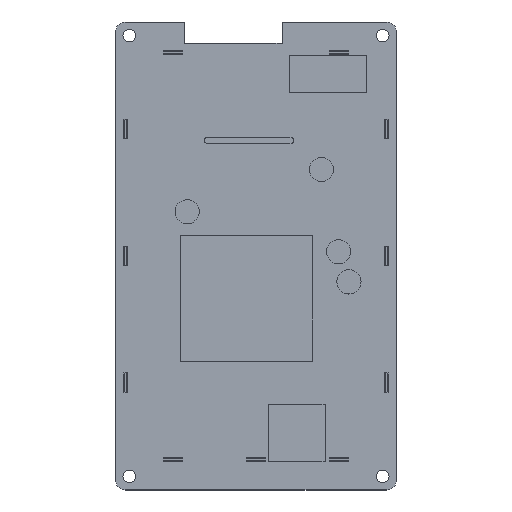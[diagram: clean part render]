
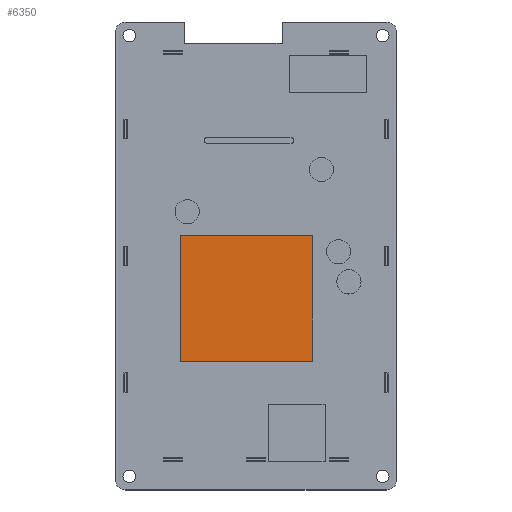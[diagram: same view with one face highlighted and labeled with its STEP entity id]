
A CAD part, top view. The second image highlights one B-rep face of the part: STEP entity #6350.
In plain terms, the highlighted planar face has unit normal (0, 0, 1).
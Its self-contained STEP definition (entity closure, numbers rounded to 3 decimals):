
#2121=DIRECTION('',(-1.,0.,0.));
#2122=VECTOR('',#2121,34.417);
#2123=CARTESIAN_POINT('',(14.783,5.334,5.2));
#2124=LINE('',#2123,#2122);
#2125=DIRECTION('',(0.,1.,0.));
#2126=VECTOR('',#2125,32.766);
#2127=CARTESIAN_POINT('',(14.783,-27.432,5.2));
#2128=LINE('',#2127,#2126);
#2129=DIRECTION('',(1.,0.,0.));
#2130=VECTOR('',#2129,34.417);
#2131=CARTESIAN_POINT('',(-19.634,-27.432,5.2));
#2132=LINE('',#2131,#2130);
#2133=DIRECTION('',(0.,-1.,0.));
#2134=VECTOR('',#2133,32.766);
#2135=CARTESIAN_POINT('',(-19.634,5.334,5.2));
#2136=LINE('',#2135,#2134);
#2541=CARTESIAN_POINT('',(14.783,5.334,5.2));
#2542=CARTESIAN_POINT('',(-19.634,5.334,5.2));
#2543=VERTEX_POINT('',#2541);
#2544=VERTEX_POINT('',#2542);
#2545=CARTESIAN_POINT('',(-19.634,-27.432,5.2));
#2546=VERTEX_POINT('',#2545);
#2547=CARTESIAN_POINT('',(14.783,-27.432,5.2));
#2548=VERTEX_POINT('',#2547);
#6339=CARTESIAN_POINT('',(-36.576,58.42,5.2));
#6340=DIRECTION('',(0.,0.,1.));
#6341=DIRECTION('',(0.,-1.,0.));
#6342=AXIS2_PLACEMENT_3D('',#6339,#6340,#6341);
#6343=PLANE('',#6342);
#6344=ORIENTED_EDGE('',*,*,#6291,.F.);
#6345=ORIENTED_EDGE('',*,*,#6306,.F.);
#6346=ORIENTED_EDGE('',*,*,#6320,.F.);
#6347=ORIENTED_EDGE('',*,*,#6333,.F.);
#6348=EDGE_LOOP('',(#6344,#6345,#6346,#6347));
#6349=FACE_OUTER_BOUND('',#6348,.F.);
#6291=EDGE_CURVE('',#2543,#2544,#2124,.T.);
#6306=EDGE_CURVE('',#2548,#2543,#2128,.T.);
#6320=EDGE_CURVE('',#2546,#2548,#2132,.T.);
#6333=EDGE_CURVE('',#2544,#2546,#2136,.T.);
#6350=ADVANCED_FACE('',(#6349),#6343,.T.);
